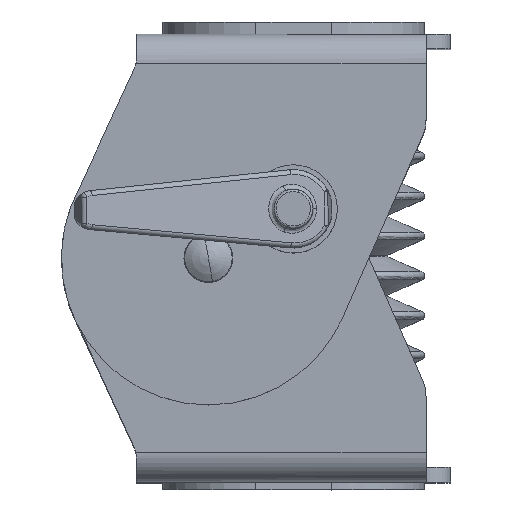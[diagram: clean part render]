
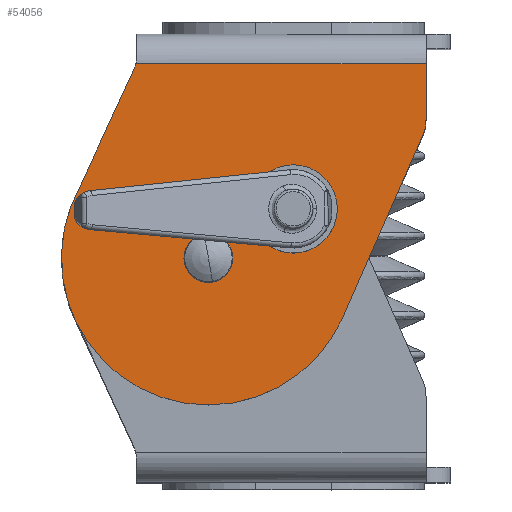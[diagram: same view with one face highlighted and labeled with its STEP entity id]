
A CAD part, top view. The second image highlights one B-rep face of the part: STEP entity #54056.
In plain terms, the highlighted planar face has unit normal (0, 0, 1) as drawn and (1, 0, 0) by its records, which use the part's own axes.
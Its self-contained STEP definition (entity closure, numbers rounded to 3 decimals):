
#325 = EDGE_CURVE ( 'NONE', #60728, #27567, #66183, .T. ) ;
#328 = DIRECTION ( 'NONE',  ( 1., 0., 0. ) ) ;
#424 = EDGE_CURVE ( 'NONE', #64082, #59144, #52482, .T. ) ;
#574 = DIRECTION ( 'NONE',  ( 0., 0., -1. ) ) ;
#790 = DIRECTION ( 'NONE',  ( 0., 0., -1. ) ) ;
#872 = CARTESIAN_POINT ( 'NONE',  ( 981.936, 510.484, -42.501 ) ) ;
#1741 = CARTESIAN_POINT ( 'NONE',  ( 981.936, 543.708, -17.446 ) ) ;
#1814 = VERTEX_POINT ( 'NONE', #53953 ) ;
#1837 = ORIENTED_EDGE ( 'NONE', *, *, #24502, .T. ) ;
#1920 = CARTESIAN_POINT ( 'NONE',  ( 981.936, 504.084, -42.501 ) ) ;
#2080 = DIRECTION ( 'NONE',  ( 0., 0., -1. ) ) ;
#3081 = CARTESIAN_POINT ( 'NONE',  ( 981.936, 484.708, -4.093 ) ) ;
#4006 = VECTOR ( 'NONE', #29880, 1000. ) ;
#4136 = VERTEX_POINT ( 'NONE', #28123 ) ;
#4151 = ORIENTED_EDGE ( 'NONE', *, *, #34294, .F. ) ;
#4417 = AXIS2_PLACEMENT_3D ( 'NONE', #61509, #328, #20869 ) ;
#4712 = CARTESIAN_POINT ( 'NONE',  ( 981.936, 524.604, -43.801 ) ) ;
#4796 = DIRECTION ( 'NONE',  ( 0., -1., 0. ) ) ;
#5336 = DIRECTION ( 'NONE',  ( 1., 0., 0. ) ) ;
#5436 = VECTOR ( 'NONE', #45449, 1000. ) ;
#6703 = CARTESIAN_POINT ( 'NONE',  ( 981.936, 510.484, -48.901 ) ) ;
#7181 = LINE ( 'NONE', #56123, #46550 ) ;
#7832 = VERTEX_POINT ( 'NONE', #6703 ) ;
#8734 = DIRECTION ( 'NONE',  ( -1., 0., 0. ) ) ;
#9282 = FACE_OUTER_BOUND ( 'NONE', #39938, .T. ) ;
#11066 = EDGE_CURVE ( 'NONE', #27567, #34585, #7181, .T. ) ;
#11804 = CARTESIAN_POINT ( 'NONE',  ( 981.936, 479.201, -35.149 ) ) ;
#13996 = AXIS2_PLACEMENT_3D ( 'NONE', #50515, #14821, #66250 ) ;
#14486 = CARTESIAN_POINT ( 'NONE',  ( 981.936, 551.708, -6. ) ) ;
#14821 = DIRECTION ( 'NONE',  ( 1., 0., 0. ) ) ;
#15345 = LINE ( 'NONE', #35600, #36201 ) ;
#16701 = CIRCLE ( 'NONE', #4417, 30. ) ;
#16757 = AXIS2_PLACEMENT_3D ( 'NONE', #3081, #8734, #59743 ) ;
#17206 = CIRCLE ( 'NONE', #40765, 30. ) ;
#17274 = ORIENTED_EDGE ( 'NONE', *, *, #47160, .F. ) ;
#17425 = DIRECTION ( 'NONE',  ( 1., 0., 0. ) ) ;
#18813 = VERTEX_POINT ( 'NONE', #4712 ) ;
#19104 = CARTESIAN_POINT ( 'NONE',  ( 981.936, 551.033, -20.661 ) ) ;
#19128 = ORIENTED_EDGE ( 'NONE', *, *, #325, .T. ) ;
#20569 = EDGE_CURVE ( 'NONE', #44020, #48530, #34925, .T. ) ;
#20869 = DIRECTION ( 'NONE',  ( 0., 0., -1. ) ) ;
#21173 = EDGE_CURVE ( 'NONE', #7832, #32164, #23625, .T. ) ;
#22037 = VECTOR ( 'NONE', #790, 1000. ) ;
#22847 = CARTESIAN_POINT ( 'NONE',  ( 981.936, 507.284, -45.701 ) ) ;
#22973 = CARTESIAN_POINT ( 'NONE',  ( 981.936, 510.484, -48.901 ) ) ;
#23197 = CARTESIAN_POINT ( 'NONE',  ( 981.936, 504.084, -48.901 ) ) ;
#23625 = LINE ( 'NONE', #872, #34061 ) ;
#23852 = DIRECTION ( 'NONE',  ( 0., 1., 0. ) ) ;
#24502 = EDGE_CURVE ( 'NONE', #56228, #60467, #17206, .T. ) ;
#27567 = VERTEX_POINT ( 'NONE', #55234 ) ;
#27798 = FACE_BOUND ( 'NONE', #33150, .T. ) ;
#28123 = CARTESIAN_POINT ( 'NONE',  ( 981.936, 534.605, -58.093 ) ) ;
#29778 = LINE ( 'NONE', #40644, #4006 ) ;
#29880 = DIRECTION ( 'NONE',  ( 0., -0.419, -0.908 ) ) ;
#29896 = EDGE_LOOP ( 'NONE', ( #39590, #36895 ) ) ;
#30114 = PLANE ( 'NONE',  #13996 ) ;
#30776 = DIRECTION ( 'NONE',  ( 0., 0., 1. ) ) ;
#30792 = EDGE_CURVE ( 'NONE', #32164, #44020, #15345, .T. ) ;
#30819 = VECTOR ( 'NONE', #23852, 1000. ) ;
#30823 = CARTESIAN_POINT ( 'NONE',  ( 981.936, 492.477, -6. ) ) ;
#31586 = EDGE_CURVE ( 'NONE', #59144, #56228, #29778, .T. ) ;
#31749 = EDGE_CURVE ( 'NONE', #18813, #1814, #59468, .T. ) ;
#32164 = VERTEX_POINT ( 'NONE', #51972 ) ;
#32723 = CIRCLE ( 'NONE', #47403, 8.1 ) ;
#33150 = EDGE_LOOP ( 'NONE', ( #41685, #50430, #17274, #42398 ) ) ;
#33223 = ORIENTED_EDGE ( 'NONE', *, *, #41955, .T. ) ;
#34061 = VECTOR ( 'NONE', #36874, 1000. ) ;
#34294 = EDGE_CURVE ( 'NONE', #64082, #34585, #64909, .T. ) ;
#34585 = VERTEX_POINT ( 'NONE', #61857 ) ;
#34925 = LINE ( 'NONE', #41929, #22037 ) ;
#35600 = CARTESIAN_POINT ( 'NONE',  ( 981.936, 504.084, -42.501 ) ) ;
#36201 = VECTOR ( 'NONE', #4796, 1000. ) ;
#36862 = EDGE_CURVE ( 'NONE', #1814, #18813, #32723, .T. ) ;
#36874 = DIRECTION ( 'NONE',  ( 0., 0., 1. ) ) ;
#36895 = ORIENTED_EDGE ( 'NONE', *, *, #36862, .F. ) ;
#38532 = EDGE_CURVE ( 'NONE', #60467, #4136, #16701, .T. ) ;
#39219 = ORIENTED_EDGE ( 'NONE', *, *, #11066, .T. ) ;
#39590 = ORIENTED_EDGE ( 'NONE', *, *, #31749, .F. ) ;
#39823 = FACE_BOUND ( 'NONE', #29896, .T. ) ;
#39938 = EDGE_LOOP ( 'NONE', ( #4151, #58755, #56706, #1837, #46696, #33223, #19128, #39219 ) ) ;
#40644 = CARTESIAN_POINT ( 'NONE',  ( 981.936, 491.973, -7.442 ) ) ;
#40765 = AXIS2_PLACEMENT_3D ( 'NONE', #22847, #53367, #58779 ) ;
#41497 = CARTESIAN_POINT ( 'NONE',  ( 981.936, 524.604, -35.701 ) ) ;
#41685 = ORIENTED_EDGE ( 'NONE', *, *, #30792, .F. ) ;
#41929 = CARTESIAN_POINT ( 'NONE',  ( 981.936, 504.084, -48.901 ) ) ;
#41955 = EDGE_CURVE ( 'NONE', #4136, #60728, #46268, .T. ) ;
#42398 = ORIENTED_EDGE ( 'NONE', *, *, #20569, .F. ) ;
#42789 = LINE ( 'NONE', #22973, #30819 ) ;
#44020 = VERTEX_POINT ( 'NONE', #1920 ) ;
#45449 = DIRECTION ( 'NONE',  ( 0., 1., 0. ) ) ;
#46268 = LINE ( 'NONE', #61893, #66407 ) ;
#46550 = VECTOR ( 'NONE', #30776, 1000. ) ;
#46696 = ORIENTED_EDGE ( 'NONE', *, *, #38532, .T. ) ;
#47160 = EDGE_CURVE ( 'NONE', #48530, #7832, #42789, .T. ) ;
#47403 = AXIS2_PLACEMENT_3D ( 'NONE', #53336, #17425, #2080 ) ;
#48530 = VERTEX_POINT ( 'NONE', #23197 ) ;
#50292 = AXIS2_PLACEMENT_3D ( 'NONE', #1741, #58634, #58411 ) ;
#50430 = ORIENTED_EDGE ( 'NONE', *, *, #21173, .F. ) ;
#50515 = CARTESIAN_POINT ( 'NONE',  ( 981.936, 551.708, 125.501 ) ) ;
#51972 = CARTESIAN_POINT ( 'NONE',  ( 981.936, 510.484, -42.501 ) ) ;
#52482 = CIRCLE ( 'NONE', #16757, 8. ) ;
#52573 = CARTESIAN_POINT ( 'NONE',  ( 981.936, 507.284, -75.701 ) ) ;
#53192 = CARTESIAN_POINT ( 'NONE',  ( 981.936, 491.973, -7.442 ) ) ;
#53336 = CARTESIAN_POINT ( 'NONE',  ( 981.936, 524.604, -35.701 ) ) ;
#53367 = DIRECTION ( 'NONE',  ( 1., 0., 0. ) ) ;
#53953 = CARTESIAN_POINT ( 'NONE',  ( 981.936, 524.604, -27.601 ) ) ;
#54056 = ADVANCED_FACE ( 'NONE', ( #9282, #27798, #39823 ), #30114, .T. ) ;
#55234 = CARTESIAN_POINT ( 'NONE',  ( 981.936, 551.708, -17.446 ) ) ;
#56123 = CARTESIAN_POINT ( 'NONE',  ( 981.936, 551.708, -17.446 ) ) ;
#56228 = VERTEX_POINT ( 'NONE', #11804 ) ;
#56706 = ORIENTED_EDGE ( 'NONE', *, *, #31586, .T. ) ;
#56929 = DIRECTION ( 'NONE',  ( 0., 0.402, 0.916 ) ) ;
#58411 = DIRECTION ( 'NONE',  ( 0., 0., -1. ) ) ;
#58634 = DIRECTION ( 'NONE',  ( 1., 0., 0. ) ) ;
#58755 = ORIENTED_EDGE ( 'NONE', *, *, #424, .T. ) ;
#58779 = DIRECTION ( 'NONE',  ( 0., 0., -1. ) ) ;
#58951 = AXIS2_PLACEMENT_3D ( 'NONE', #41497, #5336, #574 ) ;
#59144 = VERTEX_POINT ( 'NONE', #53192 ) ;
#59468 = CIRCLE ( 'NONE', #58951, 8.1 ) ;
#59743 = DIRECTION ( 'NONE',  ( 0., 0., -1. ) ) ;
#60467 = VERTEX_POINT ( 'NONE', #52573 ) ;
#60728 = VERTEX_POINT ( 'NONE', #19104 ) ;
#61509 = CARTESIAN_POINT ( 'NONE',  ( 981.936, 507.284, -45.701 ) ) ;
#61857 = CARTESIAN_POINT ( 'NONE',  ( 981.936, 551.708, -6. ) ) ;
#61893 = CARTESIAN_POINT ( 'NONE',  ( 981.936, 551.033, -20.661 ) ) ;
#64082 = VERTEX_POINT ( 'NONE', #30823 ) ;
#64909 = LINE ( 'NONE', #14486, #5436 ) ;
#66183 = CIRCLE ( 'NONE', #50292, 8. ) ;
#66250 = DIRECTION ( 'NONE',  ( 0., 0., -1. ) ) ;
#66407 = VECTOR ( 'NONE', #56929, 1000. ) ;
